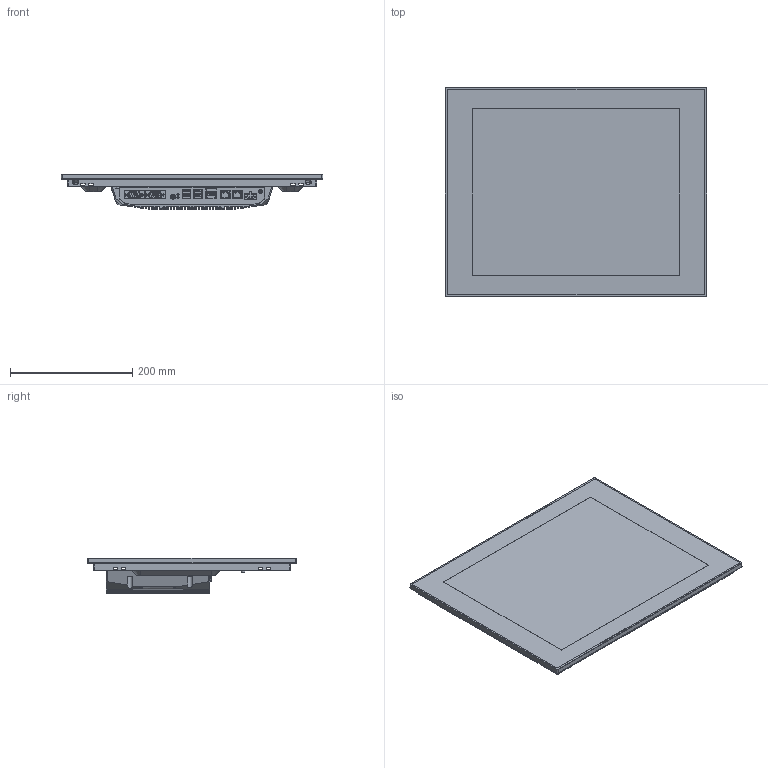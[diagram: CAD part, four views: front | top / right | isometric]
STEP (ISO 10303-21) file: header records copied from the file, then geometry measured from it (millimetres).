
FILE_DESCRIPTION (( 'STEP AP214' ), '1' );
FILE_NAME ('TPC-C170H-N S 3D蚾饜芞.STEP', '2024-08-21T06:45:52', ( 'demo' ), ( '' ), 'SwSTEP 2.0', 'SolidWorks 2016', '' );
FILE_SCHEMA (( 'AUTOMOTIVE_DESIGN' ));
Length unit declared in the file: millimetre
Products named in the file (1): TPC-C170H-N S 3D蚾饜芞
Bounding box: 428 x 342 x 58.2 mm (x, y, z)
Surface area: 567122.7 mm2 (no closed solid volume)
Topology: 0 solids, 95 shells, 1371 faces, 7727 edges, 6088 vertices
Faces by surface type: plane 888, cylinder 373, cone 77, bspline 23, torus 10
Entity records: 90594 total; most frequent: CARTESIAN_POINT 19169, DIRECTION 10890, ORIENTED_EDGE 10314, EDGE_CURVE 7705, VERTEX_POINT 6088, LINE 5654, VECTOR 5654, AXIS2_PLACEMENT_3D 2618
